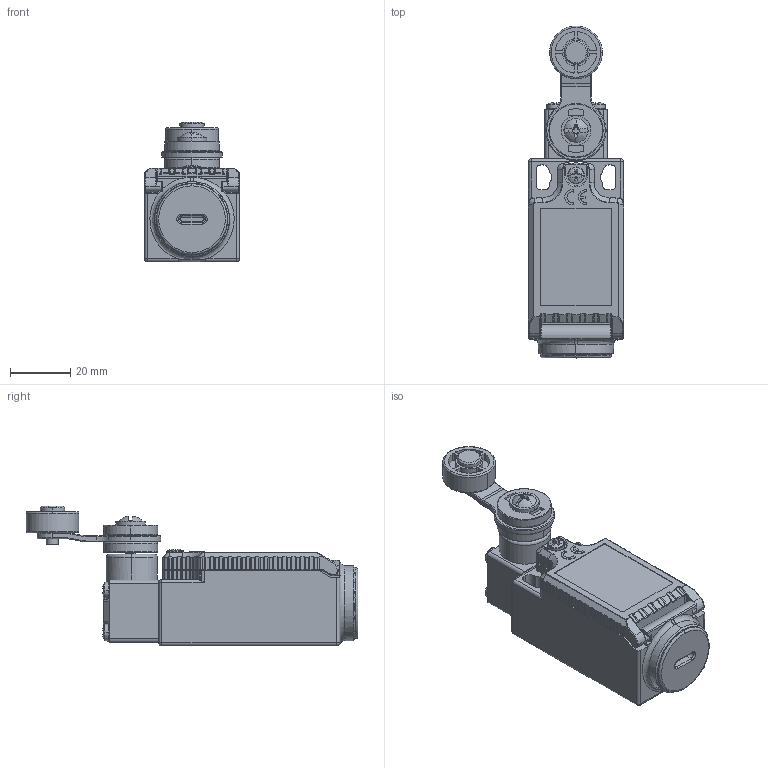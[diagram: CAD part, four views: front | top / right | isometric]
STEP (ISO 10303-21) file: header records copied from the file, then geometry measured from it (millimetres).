
FILE_DESCRIPTION (( 'STEP AP203' ), '1' );
FILE_NAME ('171-LPS-Roller Lever (STEP format).STEP', '2016-11-24T13:50:15', ( '' ), ( '' ), 'SwSTEP 2.0', 'SolidWorks 2015', '' );
FILE_SCHEMA (( 'CONFIG_CONTROL_DESIGN' ));
Products named in the file (1): 171-LPS-Roller Lever (STEP format)
Bounding box: 31.7 x 110 x 46.4 mm (x, y, z)
Volume: 32411.8 mm3; surface area: 33953.2 mm2
Topology: 15 solids, 15 shells, 2780 faces, 7550 edges, 4825 vertices
Faces by surface type: cylinder 1191, plane 1170, bspline 253, cone 93, torus 73
Entity records: 110405 total; most frequent: CARTESIAN_POINT 44287, ORIENTED_EDGE 14980, DIRECTION 12320, EDGE_CURVE 7490, VERTEX_POINT 4825, LINE 4162, VECTOR 4162, AXIS2_PLACEMENT_3D 4079
